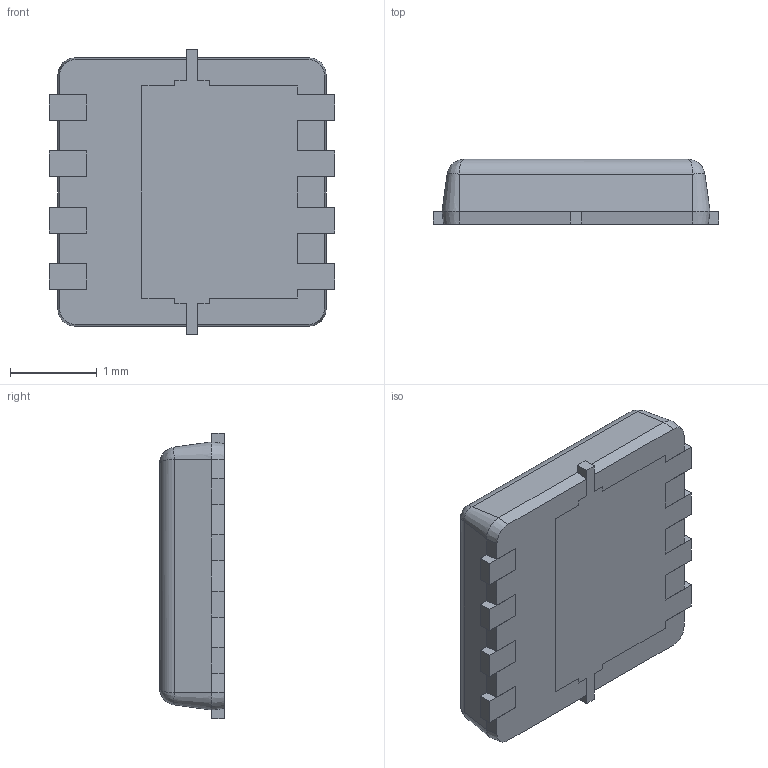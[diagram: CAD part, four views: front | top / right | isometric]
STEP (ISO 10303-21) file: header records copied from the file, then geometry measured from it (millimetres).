
FILE_DESCRIPTION (( 'STEP AP203' ), '1' );
FILE_NAME ('DFN3333.STEP', '2023-06-15T03:52:10', ( '' ), ( '' ), 'SwSTEP 2.0', 'SolidWorks 2022', '' );
FILE_SCHEMA (( 'CONFIG_CONTROL_DESIGN' ));
Length unit declared in the file: millimetre
Products named in the file (3): EMC; DFN3333; LeadFrame
Assembly tree (2 placements, depth 2):
  DFN3333
    LeadFrame
    EMC
Bounding box: 3.3 x 0.75 x 3.3 mm (x, y, z)
Volume: 6.8 mm3; surface area: 42.1 mm2
Topology: 6 solids, 6 shells, 150 faces, 378 edges, 236 vertices
Faces by surface type: plane 134, cone 8, bspline 4, cylinder 4
Entity records: 6207 total; most frequent: CARTESIAN_POINT 2385, ORIENTED_EDGE 748, DIRECTION 672, EDGE_CURVE 374, LINE 354, VECTOR 354, VERTEX_POINT 236, AXIS2_PLACEMENT_3D 159
